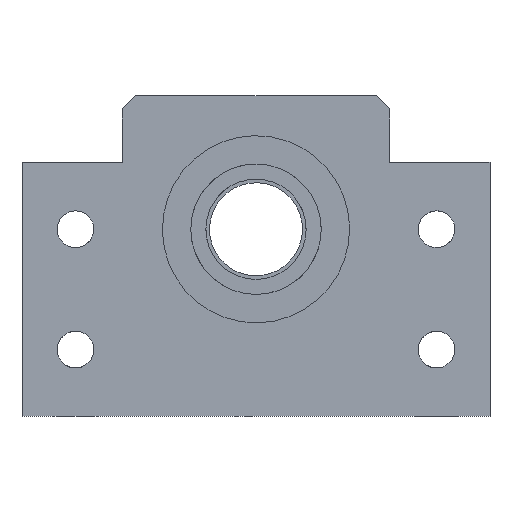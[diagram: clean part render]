
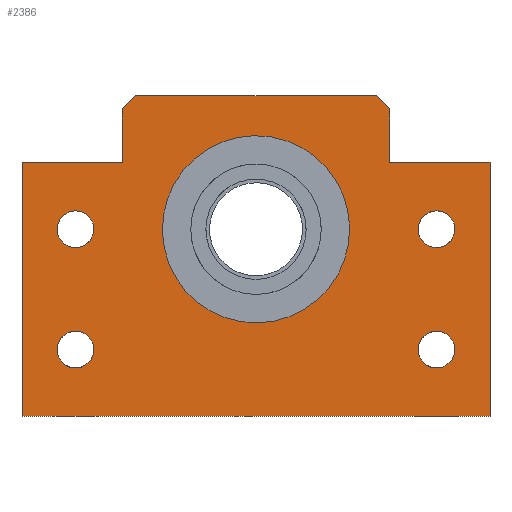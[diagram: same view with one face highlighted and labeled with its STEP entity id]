
A CAD part, left-side view. The second image highlights one B-rep face of the part: STEP entity #2386.
In plain terms, the highlighted planar face has unit normal (-1, 0, 0).
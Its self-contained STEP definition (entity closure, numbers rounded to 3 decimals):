
#70=CARTESIAN_POINT('Vertex',(-27.,24.587,-16.682)) ;
#75=CARTESIAN_POINT('Axis2P3D Location',(-27.,27.,-18.)) ;
#79=CARTESIAN_POINT('Vertex',(-27.,29.413,-19.318)) ;
#127=CARTESIAN_POINT('Axis2P3D Location',(-27.,27.,-18.)) ;
#260=CARTESIAN_POINT('Line Origine',(-27.,0.,-28.)) ;
#264=CARTESIAN_POINT('Vertex',(-27.,-35.,-28.)) ;
#266=CARTESIAN_POINT('Vertex',(-27.,35.,-28.)) ;
#372=CARTESIAN_POINT('Line Origine',(-27.,-35.,-9.)) ;
#376=CARTESIAN_POINT('Vertex',(-27.,-35.,10.)) ;
#463=CARTESIAN_POINT('Line Origine',(-27.,-27.5,10.)) ;
#467=CARTESIAN_POINT('Vertex',(-27.,-20.,10.)) ;
#530=CARTESIAN_POINT('Line Origine',(-27.,-20.,14.)) ;
#534=CARTESIAN_POINT('Vertex',(-27.,-20.,18.)) ;
#572=CARTESIAN_POINT('Vertex',(-27.,-18.,20.)) ;
#575=CARTESIAN_POINT('Line Origine',(-27.,-19.,19.)) ;
#603=CARTESIAN_POINT('Vertex',(-27.,18.,20.)) ;
#606=CARTESIAN_POINT('Line Origine',(-27.,0.,20.)) ;
#634=CARTESIAN_POINT('Vertex',(-27.,20.,18.)) ;
#637=CARTESIAN_POINT('Line Origine',(-27.,19.,19.)) ;
#665=CARTESIAN_POINT('Vertex',(-27.,20.,10.)) ;
#668=CARTESIAN_POINT('Line Origine',(-27.,20.,14.)) ;
#680=CARTESIAN_POINT('Line Origine',(-27.,27.5,10.)) ;
#684=CARTESIAN_POINT('Vertex',(-27.,35.,10.)) ;
#747=CARTESIAN_POINT('Axis2P3D Location',(-27.,0.,0.)) ;
#751=CARTESIAN_POINT('Vertex',(-27.,12.286,6.712)) ;
#753=CARTESIAN_POINT('Vertex',(-27.,-12.286,-6.712)) ;
#782=CARTESIAN_POINT('Axis2P3D Location',(-27.,0.,0.)) ;
#1630=CARTESIAN_POINT('Line Origine',(-27.,35.,-9.)) ;
#2173=CARTESIAN_POINT('Vertex',(-27.,24.587,1.318)) ;
#2176=CARTESIAN_POINT('Axis2P3D Location',(-27.,27.,0.)) ;
#2180=CARTESIAN_POINT('Vertex',(-27.,29.413,-1.318)) ;
#2196=CARTESIAN_POINT('Axis2P3D Location',(-27.,27.,0.)) ;
#2321=CARTESIAN_POINT('Axis2P3D Location',(-27.,0.,0.)) ;
#2350=CARTESIAN_POINT('Axis2P3D Location',(-27.,-27.,0.)) ;
#2354=CARTESIAN_POINT('Vertex',(-27.,-29.413,1.318)) ;
#2356=CARTESIAN_POINT('Vertex',(-27.,-24.587,-1.318)) ;
#2359=CARTESIAN_POINT('Axis2P3D Location',(-27.,-27.,0.)) ;
#2368=CARTESIAN_POINT('Axis2P3D Location',(-27.,-27.,-18.)) ;
#2372=CARTESIAN_POINT('Vertex',(-27.,-29.413,-16.682)) ;
#2374=CARTESIAN_POINT('Vertex',(-27.,-24.587,-19.318)) ;
#2377=CARTESIAN_POINT('Axis2P3D Location',(-27.,-27.,-18.)) ;
#76=DIRECTION('Axis2P3D Direction',(-1.,0.,-0.)) ;
#128=DIRECTION('Axis2P3D Direction',(-1.,0.,-0.)) ;
#261=DIRECTION('Vector Direction',(0.,-1.,0.)) ;
#373=DIRECTION('Vector Direction',(0.,0.,1.)) ;
#464=DIRECTION('Vector Direction',(0.,1.,0.)) ;
#531=DIRECTION('Vector Direction',(0.,0.,1.)) ;
#576=DIRECTION('Vector Direction',(0.,0.707,0.707)) ;
#607=DIRECTION('Vector Direction',(0.,1.,0.)) ;
#638=DIRECTION('Vector Direction',(0.,-0.707,0.707)) ;
#669=DIRECTION('Vector Direction',(0.,0.,-1.)) ;
#681=DIRECTION('Vector Direction',(0.,1.,0.)) ;
#748=DIRECTION('Axis2P3D Direction',(1.,-0.,0.)) ;
#783=DIRECTION('Axis2P3D Direction',(1.,-0.,0.)) ;
#1631=DIRECTION('Vector Direction',(0.,0.,-1.)) ;
#2177=DIRECTION('Axis2P3D Direction',(-1.,0.,0.)) ;
#2197=DIRECTION('Axis2P3D Direction',(-1.,0.,0.)) ;
#2322=DIRECTION('Axis2P3D Direction',(1.,0.,0.)) ;
#2323=DIRECTION('Axis2P3D XDirection',(0.,1.,0.)) ;
#2351=DIRECTION('Axis2P3D Direction',(1.,0.,0.)) ;
#2360=DIRECTION('Axis2P3D Direction',(1.,0.,0.)) ;
#2369=DIRECTION('Axis2P3D Direction',(1.,0.,0.)) ;
#2378=DIRECTION('Axis2P3D Direction',(1.,0.,0.)) ;
#77=AXIS2_PLACEMENT_3D('Circle Axis2P3D',#75,#76,$) ;
#129=AXIS2_PLACEMENT_3D('Circle Axis2P3D',#127,#128,$) ;
#749=AXIS2_PLACEMENT_3D('Circle Axis2P3D',#747,#748,$) ;
#784=AXIS2_PLACEMENT_3D('Circle Axis2P3D',#782,#783,$) ;
#2178=AXIS2_PLACEMENT_3D('Circle Axis2P3D',#2176,#2177,$) ;
#2198=AXIS2_PLACEMENT_3D('Circle Axis2P3D',#2196,#2197,$) ;
#2324=AXIS2_PLACEMENT_3D('Plane Axis2P3D',#2321,#2322,#2323) ;
#2352=AXIS2_PLACEMENT_3D('Circle Axis2P3D',#2350,#2351,$) ;
#2361=AXIS2_PLACEMENT_3D('Circle Axis2P3D',#2359,#2360,$) ;
#2370=AXIS2_PLACEMENT_3D('Circle Axis2P3D',#2368,#2369,$) ;
#2379=AXIS2_PLACEMENT_3D('Circle Axis2P3D',#2377,#2378,$) ;
#2327=ORIENTED_EDGE('',*,*,#579,.F.) ;
#2328=ORIENTED_EDGE('',*,*,#610,.F.) ;
#2329=ORIENTED_EDGE('',*,*,#641,.F.) ;
#2330=ORIENTED_EDGE('',*,*,#672,.F.) ;
#2331=ORIENTED_EDGE('',*,*,#686,.F.) ;
#2332=ORIENTED_EDGE('',*,*,#1634,.F.) ;
#2333=ORIENTED_EDGE('',*,*,#268,.F.) ;
#2334=ORIENTED_EDGE('',*,*,#378,.F.) ;
#2335=ORIENTED_EDGE('',*,*,#469,.F.) ;
#2336=ORIENTED_EDGE('',*,*,#536,.F.) ;
#2339=ORIENTED_EDGE('',*,*,#2200,.T.) ;
#2340=ORIENTED_EDGE('',*,*,#2182,.T.) ;
#2343=ORIENTED_EDGE('',*,*,#81,.T.) ;
#2344=ORIENTED_EDGE('',*,*,#131,.T.) ;
#2347=ORIENTED_EDGE('',*,*,#786,.T.) ;
#2348=ORIENTED_EDGE('',*,*,#755,.T.) ;
#2365=ORIENTED_EDGE('',*,*,#2358,.T.) ;
#2366=ORIENTED_EDGE('',*,*,#2363,.T.) ;
#2383=ORIENTED_EDGE('',*,*,#2376,.T.) ;
#2384=ORIENTED_EDGE('',*,*,#2381,.T.) ;
#2341=FACE_BOUND('',#2338,.T.) ;
#2345=FACE_BOUND('',#2342,.T.) ;
#2349=FACE_BOUND('',#2346,.T.) ;
#2367=FACE_BOUND('',#2364,.T.) ;
#2385=FACE_BOUND('',#2382,.T.) ;
#262=VECTOR('Line Direction',#261,1.) ;
#374=VECTOR('Line Direction',#373,1.) ;
#465=VECTOR('Line Direction',#464,1.) ;
#532=VECTOR('Line Direction',#531,1.) ;
#577=VECTOR('Line Direction',#576,1.) ;
#608=VECTOR('Line Direction',#607,1.) ;
#639=VECTOR('Line Direction',#638,1.) ;
#670=VECTOR('Line Direction',#669,1.) ;
#682=VECTOR('Line Direction',#681,1.) ;
#1632=VECTOR('Line Direction',#1631,1.) ;
#2386=ADVANCED_FACE('BK15(H)',(#2337,#2341,#2345,#2349,#2367,#2385),#2325,.F.) ;
#78=CIRCLE('generated circle',#77,2.75) ;
#130=CIRCLE('generated circle',#129,2.75) ;
#750=CIRCLE('generated circle',#749,14.) ;
#785=CIRCLE('generated circle',#784,14.) ;
#2179=CIRCLE('generated circle',#2178,2.75) ;
#2199=CIRCLE('generated circle',#2198,2.75) ;
#2353=CIRCLE('generated circle',#2352,2.75) ;
#2362=CIRCLE('generated circle',#2361,2.75) ;
#2371=CIRCLE('generated circle',#2370,2.75) ;
#2380=CIRCLE('generated circle',#2379,2.75) ;
#81=EDGE_CURVE('',#80,#71,#78,.F.) ;
#131=EDGE_CURVE('',#71,#80,#130,.F.) ;
#268=EDGE_CURVE('',#265,#267,#263,.F.) ;
#378=EDGE_CURVE('',#377,#265,#375,.F.) ;
#469=EDGE_CURVE('',#468,#377,#466,.F.) ;
#536=EDGE_CURVE('',#535,#468,#533,.F.) ;
#579=EDGE_CURVE('',#573,#535,#578,.F.) ;
#610=EDGE_CURVE('',#604,#573,#609,.F.) ;
#641=EDGE_CURVE('',#635,#604,#640,.T.) ;
#672=EDGE_CURVE('',#666,#635,#671,.F.) ;
#686=EDGE_CURVE('',#685,#666,#683,.F.) ;
#755=EDGE_CURVE('',#752,#754,#750,.T.) ;
#786=EDGE_CURVE('',#754,#752,#785,.T.) ;
#1634=EDGE_CURVE('',#267,#685,#1633,.F.) ;
#2182=EDGE_CURVE('',#2181,#2174,#2179,.F.) ;
#2200=EDGE_CURVE('',#2174,#2181,#2199,.F.) ;
#2358=EDGE_CURVE('',#2355,#2357,#2353,.T.) ;
#2363=EDGE_CURVE('',#2357,#2355,#2362,.T.) ;
#2376=EDGE_CURVE('',#2373,#2375,#2371,.T.) ;
#2381=EDGE_CURVE('',#2375,#2373,#2380,.T.) ;
#2326=EDGE_LOOP('',(#2327,#2328,#2329,#2330,#2331,#2332,#2333,#2334,#2335,#2336)) ;
#2338=EDGE_LOOP('',(#2339,#2340)) ;
#2342=EDGE_LOOP('',(#2343,#2344)) ;
#2346=EDGE_LOOP('',(#2347,#2348)) ;
#2364=EDGE_LOOP('',(#2365,#2366)) ;
#2382=EDGE_LOOP('',(#2383,#2384)) ;
#2337=FACE_OUTER_BOUND('',#2326,.T.) ;
#263=LINE('Line',#260,#262) ;
#375=LINE('Line',#372,#374) ;
#466=LINE('Line',#463,#465) ;
#533=LINE('Line',#530,#532) ;
#578=LINE('Line',#575,#577) ;
#609=LINE('Line',#606,#608) ;
#640=LINE('Line',#637,#639) ;
#671=LINE('Line',#668,#670) ;
#683=LINE('Line',#680,#682) ;
#1633=LINE('Line',#1630,#1632) ;
#2325=PLANE('Plane',#2324) ;
#71=VERTEX_POINT('',#70) ;
#80=VERTEX_POINT('',#79) ;
#265=VERTEX_POINT('',#264) ;
#267=VERTEX_POINT('',#266) ;
#377=VERTEX_POINT('',#376) ;
#468=VERTEX_POINT('',#467) ;
#535=VERTEX_POINT('',#534) ;
#573=VERTEX_POINT('',#572) ;
#604=VERTEX_POINT('',#603) ;
#635=VERTEX_POINT('',#634) ;
#666=VERTEX_POINT('',#665) ;
#685=VERTEX_POINT('',#684) ;
#752=VERTEX_POINT('',#751) ;
#754=VERTEX_POINT('',#753) ;
#2174=VERTEX_POINT('',#2173) ;
#2181=VERTEX_POINT('',#2180) ;
#2355=VERTEX_POINT('',#2354) ;
#2357=VERTEX_POINT('',#2356) ;
#2373=VERTEX_POINT('',#2372) ;
#2375=VERTEX_POINT('',#2374) ;
